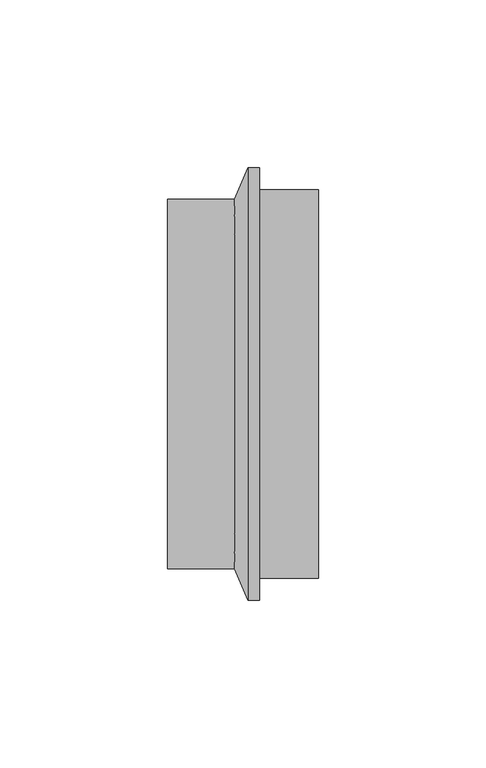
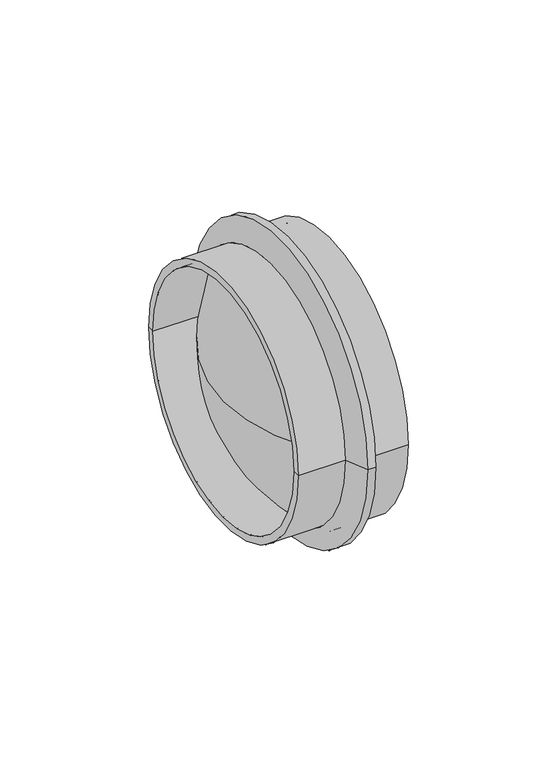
"""IFC4 building model written with IfcOpenShell, lengths in millimetres: pipe fitting geometry, NLRS_52_UN_PIF_PVC kombikap_PipeLife : Grijs, var. DN/OD."""

from ifc_helpers import new_model, si_unit, point, frame, origin, place, context, project, spatial, polyline, circle_curve, ellipse_curve, trimmed, source, transform, mapped, element, save
from ifc_brep_helpers import plane_surface, cylinder_surface, revolved_surface, advanced_brep


def pipe_fitting_c9823350(model_context):
    return source(origin(), model_context, "Body", "AdvancedBrep", [
        advanced_brep(
        [(0.0, -58.0, 0.0), (0.0, 58.0, 0.0), (21.0, 58.0, 0.0), (21.0, -58.0, 0.0), (21.0, 55.0, 0.0), (21.0, -55.0, 0.0), (0.0, 55.0, 0.0), (0.0, -55.0, 0.0), (0.0, 51.95, 0.0), (0.0, -51.95, 0.0), (-20.8, 0.0, 0.0), (-24.0, 0.0, 0.0), (-3.0, 51.95, 0.0), (-3.0, -51.95, 0.0), (-24.0, 51.95, 0.0), (-24.0, -51.95, 0.0), (-24.0, 55.15, 0.0), (-24.0, -55.15, 0.0), (-4.0594381, 55.15, 0.0), (-4.0594381, -55.15, 0.0), (0.0, 64.5, 0.0), (0.0, -64.5, 0.0), (3.4506767, 64.5, 0.0), (3.4506767, -64.5, 0.0)],
        [
            (0, 1, circle_curve(frame((0.0, 0.0, 0.0), z_axis=(1.0, 0.0, 0.0), x_axis=(0.0, 1.0000000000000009, 0.0)), 58.0)),
            (1, 2),
            (2, 3, circle_curve(frame((21.0, 0.0, 0.0), z_axis=(-1.0, 0.0, 0.0), x_axis=(0.0, 1.0000000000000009, 0.0)), 58.0)),
            (3, 0),
            (1, 0, circle_curve(frame((0.0, 0.0, 0.0), z_axis=(1.0, 0.0, 0.0), x_axis=(0.0, 1.0000000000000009, 0.0)), 58.0)),
            (3, 2, circle_curve(frame((21.0, 0.0, 0.0), z_axis=(-1.0, 0.0, 0.0), x_axis=(0.0, 1.0000000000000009, 0.0)), 58.0)),
            (2, 4),
            (4, 5, circle_curve(frame((21.0, 0.0, 0.0), z_axis=(-1.0, 0.0, 0.0), x_axis=(0.0, 1.0000000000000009, 0.0)), 55.0)),
            (5, 3),
            (5, 4, circle_curve(frame((21.0, 0.0, 0.0), z_axis=(-1.0, 0.0, 0.0), x_axis=(0.0, 1.0000000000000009, 0.0)), 55.0)),
            (4, 6),
            (6, 7, circle_curve(frame((0.0, 0.0, 0.0), z_axis=(-1.0, 0.0, 0.0), x_axis=(0.0, 1.0000000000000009, 0.0)), 55.0)),
            (7, 5),
            (7, 6, circle_curve(frame((0.0, 0.0, 0.0), z_axis=(-1.0, 0.0, 0.0), x_axis=(0.0, 1.0000000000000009, 0.0)), 55.0)),
            (6, 8),
            (8, 9, circle_curve(frame((0.0, 0.0, 0.0), z_axis=(-1.0, 0.0, 0.0), x_axis=(0.0, 1.0000000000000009, 0.0)), 51.95)),
            (9, 7),
            (9, 8, circle_curve(frame((0.0, 0.0, 0.0), z_axis=(-1.0, 0.0, 0.0), x_axis=(0.0, 1.0000000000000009, 0.0)), 51.95)),
            (8, 10, circle_curve(frame((54.5999399, -0.05, 0.0), z_axis=(0.0, 0.0, 1.0000000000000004), x_axis=(-1.0000000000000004, 0.0, 0.0)), 75.3999565)),
            (10, 9, circle_curve(frame((54.5999399, 0.05, 0.0), z_axis=(0.0, 0.0, 1.0000000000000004), x_axis=(-1.0000000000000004, 0.0, 0.0)), 75.3999565)),
            (11, 12, circle_curve(frame((50.8808929, -0.05, 0.0), z_axis=(0.0, 0.0, -1.0000000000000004), x_axis=(-1.0000000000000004, 0.0, 0.0)), 74.8809096)),
            (12, 13, circle_curve(frame((-3.0, 0.0, 0.0), z_axis=(-1.0, 0.0, 0.0), x_axis=(0.0, 1.0000000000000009, 0.0)), 51.95)),
            (13, 11, circle_curve(frame((50.8808929, 0.05, 0.0), z_axis=(0.0, 0.0, -1.0000000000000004), x_axis=(-1.0000000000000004, 0.0, 0.0)), 74.8809096)),
            (13, 12, circle_curve(frame((-3.0, 0.0, 0.0), z_axis=(-1.0, 0.0, 0.0), x_axis=(0.0, 1.0000000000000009, 0.0)), 51.95)),
            (12, 14),
            (14, 15, circle_curve(frame((-24.0, 0.0, 0.0), z_axis=(-1.0, 0.0, 0.0), x_axis=(0.0, 1.0000000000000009, 0.0)), 51.95)),
            (15, 13),
            (15, 14, circle_curve(frame((-24.0, 0.0, 0.0), z_axis=(-1.0, 0.0, 0.0), x_axis=(0.0, 1.0000000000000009, 0.0)), 51.95)),
            (14, 16),
            (16, 17, circle_curve(frame((-24.0, 0.0, 0.0), z_axis=(-1.0, 0.0, 0.0), x_axis=(0.0, 1.0000000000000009, 0.0)), 55.15)),
            (17, 15),
            (17, 16, circle_curve(frame((-24.0, 0.0, 0.0), z_axis=(-1.0, 0.0, 0.0), x_axis=(0.0, 1.0000000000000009, 0.0)), 55.15)),
            (16, 18),
            (18, 19, circle_curve(frame((-4.0594381, 0.0, 0.0), z_axis=(-1.0, 0.0, 0.0), x_axis=(0.0, 1.0000000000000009, 0.0)), 55.15)),
            (19, 17),
            (19, 18, circle_curve(frame((-4.0594381, 0.0, 0.0), z_axis=(-1.0, 0.0, 0.0), x_axis=(0.0, 1.0000000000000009, 0.0)), 55.15)),
            (18, 20),
            (20, 21, circle_curve(frame((0.0, 0.0, 0.0), z_axis=(-1.0, 0.0, 0.0), x_axis=(0.0, 1.0000000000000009, 0.0)), 64.5)),
            (21, 19),
            (21, 20, circle_curve(frame((0.0, 0.0, 0.0), z_axis=(-1.0, 0.0, 0.0), x_axis=(0.0, 1.0000000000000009, 0.0)), 64.5)),
            (20, 22),
            (22, 23, circle_curve(frame((3.4506767, 0.0, 0.0), z_axis=(-1.0, 0.0, 0.0), x_axis=(0.0, 1.0000000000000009, 0.0)), 64.5)),
            (23, 21),
            (23, 22, circle_curve(frame((3.4506767, 0.0, 0.0), z_axis=(-1.0, 0.0, 0.0), x_axis=(0.0, 1.0000000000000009, 0.0)), 64.5)),
            (22, 1),
            (0, 23),
        ],
        [
            cylinder_surface(frame((21.0, 0.0, 0.0), z_axis=(-1.0000000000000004, 0.0, 0.0), x_axis=(0.0, 1.0000000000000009, 0.0)), 58.0),
            plane_surface(frame((21.0, 0.0, 0.0), z_axis=(1.0, 0.0, 0.0), x_axis=(0.0, 1.0, 0.0))),
            revolved_surface(polyline([(-2.1316282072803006e-14, 55.00000000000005, 0.0), (21.0, 55.00000000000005, 0.0)]), (21.0, 0.0, 0.0), (-1.0000000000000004, 0.0, 0.0)),
            plane_surface(frame((0.0, 0.0, 0.0), z_axis=(1.0, 0.0, 0.0), x_axis=(0.0, 1.0, 0.0))),
            revolved_surface(trimmed(ellipse_curve(frame((54.5999399, -0.05, 0.0), z_axis=(0.0, 0.0, -1.0000000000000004), x_axis=(-1.0000000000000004, 0.0, 0.0)), 75.3999565, 75.3999565), [point((-20.8, 0.0, 0.0))], [point((0.0, 51.95, 0.0))], True, "CARTESIAN"), (21.0, 0.0, 0.0), (-1.0000000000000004, 0.0, 0.0)),
            revolved_surface(trimmed(ellipse_curve(frame((50.8808929, -0.05, 0.0), z_axis=(0.0, 0.0, 1.0000000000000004), x_axis=(-1.0000000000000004, 0.0, 0.0)), 74.8809096, 74.8809096), [point((-3.0, 51.95, 0.0))], [point((-24.0, 0.0, 0.0))], True, "CARTESIAN"), (21.0, 0.0, 0.0), (-1.0000000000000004, 0.0, 0.0)),
            revolved_surface(polyline([(-24.000000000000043, 51.950000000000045, 0.0), (-3.0000000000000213, 51.950000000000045, 0.0)]), (21.0, 0.0, 0.0), (-1.0000000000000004, 0.0, 0.0)),
            plane_surface(frame((-24.0, 0.0, 0.0), z_axis=(-1.0, 0.0, 0.0), x_axis=(0.0, 1.0, 0.0))),
            cylinder_surface(frame((21.0, 0.0, 0.0), z_axis=(-1.0000000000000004, 0.0, 0.0), x_axis=(0.0, 1.0000000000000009, 0.0)), 55.15),
            revolved_surface(polyline([(0.0, 64.5, 0.0), (-4.0594381, 55.15, 0.0)]), (21.0, 0.0, 0.0), (-1.0000000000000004, 0.0, 0.0)),
            cylinder_surface(frame((21.0, 0.0, 0.0), z_axis=(-1.0000000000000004, 0.0, 0.0), x_axis=(0.0, 1.0000000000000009, 0.0)), 64.5),
            revolved_surface(polyline([(0.0, 58.0, 0.0), (3.4506767, 64.5, 0.0)]), (21.0, 0.0, 0.0), (-1.0000000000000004, 0.0, 0.0)),
        ],
        [
            (0, [[1, 2, 3, 4]]),
            (0, [[5, -4, 6, -2]]),
            (1, [[-3, 7, 8, 9]]),
            (1, [[-6, -9, 10, -7]]),
            (2, [[-8, 11, 12, 13]]),
            (2, [[-10, -13, 14, -11]]),
            (3, [[-12, 15, 16, 17]]),
            (3, [[-14, -17, 18, -15]]),
            (4, [[-16, 19, 20]]),
            (4, [[-18, -20, -19]]),
            (5, [[21, 22, 23]]),
            (5, [[-23, 24, -21]]),
            (6, [[-22, 25, 26, 27]]),
            (6, [[-24, -27, 28, -25]]),
            (7, [[-26, 29, 30, 31]]),
            (7, [[-28, -31, 32, -29]]),
            (8, [[-30, 33, 34, 35]]),
            (8, [[-32, -35, 36, -33]]),
            (9, [[-34, 37, 38, 39]]),
            (9, [[-36, -39, 40, -37]]),
            (10, [[-38, 41, 42, 43]]),
            (10, [[-40, -43, 44, -41]]),
            (11, [[-42, 45, -1, 46]]),
            (11, [[-44, -46, -5, -45]]),
        ],
    ),
    ])


if __name__ == "__main__":
    model = new_model("IFC4")
    model_context = context("Model", 3, world=origin())
    ifc_project = project(units=[si_unit("LENGTHUNIT", "METRE", prefix="MILLI")], contexts=[model_context])
    site = spatial("IfcSite", under=ifc_project)
    building = spatial("IfcBuilding", under=site)
    placement = place(None, origin())
    pipe_fitting_shape = pipe_fitting_c9823350(model_context)
    element("IfcPipeFitting", 1, ObjectType="NLRS_52_UN_PIF_PVC kombikap_PipeLife : Grijs, var. DN/OD", at=placement, inside=building, context=model_context, shape_type="MappedRepresentation", body=[
        mapped(pipe_fitting_shape, transform((0.0, 0.0, 0.0), x_axis=(1.0, 0.0, 0.0), y_axis=(0.0, 1.0, 0.0), z_axis=(0.0, 0.0, 1.0))),
    ])
    save(model, "model.ifc")
